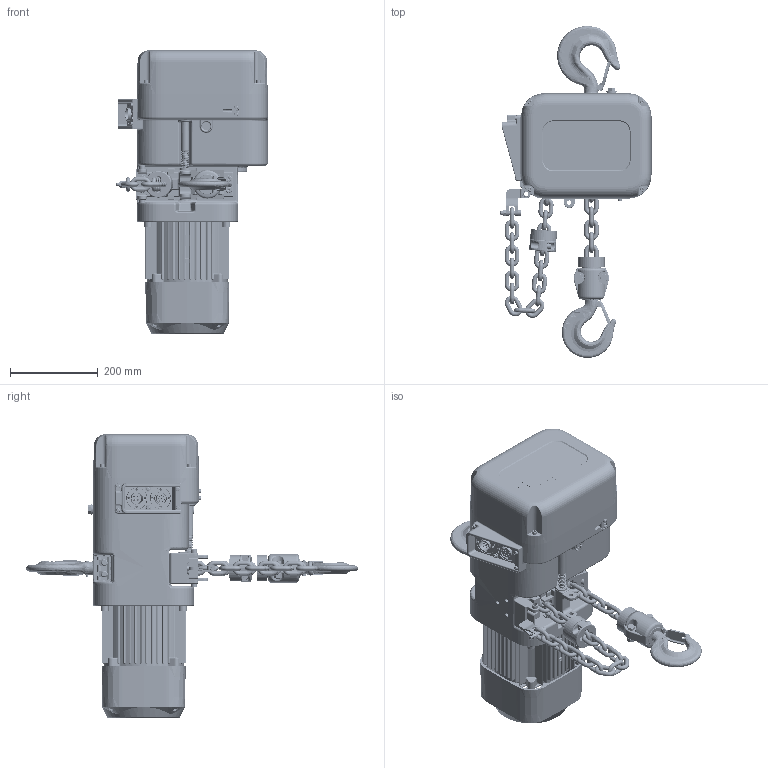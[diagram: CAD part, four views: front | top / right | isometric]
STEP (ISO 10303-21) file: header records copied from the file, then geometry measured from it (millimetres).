
FILE_DESCRIPTION (( 'STEP AP214' ), '1' );
FILE_NAME ('NER2015S.STEP', '2025-10-10T18:58:09', ( '' ), ( '' ), 'SwSTEP 2.0', 'SolidWorks 2025', '' );
FILE_SCHEMA (( 'AUTOMOTIVE_DESIGN' ));
Length unit declared in the file: inch
Products named in the file (51): ER2ES1002; J1BY9-1003526_B18.2.3.1M - Hex cap screw, M10 x 1.5 x 35 --35C; ER2ES9186; ER1ES1041; ER1BS9535; ER2EM1002; E3S111003; ER2ES9408; ER2DS9107_ER2DS9107; J1BG10604040_J1BG10604040; J1WS011-20100_Rectangular section spring washer BS 4464 - 16 (Type B); MS561010; 90912116_90912116; LCER2020NP (SHAPED 2); ER2CS9511; M6F554010; ER2ES2523; ER2EL9338; ER1BS9135; ER2EM9015; ES127005S; ER2ES9337; J1BG10601212_B18.3.1M - 6 x 1.0 x 12 Hex SHCS -- 12CHX; ER2CS9357; 9012711_9012711; ER2BHM20S9A5; LCER2020NP_10 LINKS; ER2EM1011; ER2EL9105; 9091274_9091274; ER2EL9103; ER2ES9121; ER2EM9011; LCER2020NP; ENDS2E; ER2BHM15M9A6; 90912152_B18.3.1M - 8 x 1.25 x 40 Hex SHCS -- 40CHX; ER2ES9331; ER2EM2015; ER1ES9053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
Assembly tree (109 placements, depth 4):
  NER2015S
    ER2ES9104_ER2ES9104
    ER2EL9103
    ER2ES9101
    ER2EL9105
    ER2DS9107_ER2DS9107
    ER2EM1011
      ER2EM9011
      ER2EM1002
      ER2EM2015
        ER2EM9015  x2
        J1BY9-1003526_B18.2.3.1M - Hex cap screw, M10 x 1.5 x 35 --35C  x2
        J1WS011-20100_Rectangular section spring washer BS 4464 - 16 (Type B)  x2
        J1NA001-20100_B18.2.4.1M - Hex nut, Style 1,  M10 x 1.5, with 16mm WAF --D-C  x2
    ER2ES1001
      ER2ES9001
      ER2ES1002
    ER2ES9121  x2
    ER2ES9186
    ER2ES9123
    J1BG10601212_B18.3.1M - 6 x 1.0 x 12 Hex SHCS -- 12CHX
    ER2CS9511
    J1BG10604040_J1BG10604040  x4
    90912116_90912116  x4
    9091234_B18.3.1M - 5 x 0.8 x 45 Hex SHCS -- 22CHX  x4
    E3S111003
    E3S112003
    ER1BS9135
    ES127005S
    ER2EL9338
    ER2CS9357
    ER2ES9337
    9012711_9012711  x4
    9091274_9091274  x4
    LCER2020NP_10 LINKS
      LCER2020NP  x10
    ER2ES2523
    ER2CS2564
    MS561010  x6
    ER2BHM20S9A5
    ER2BHM15M9A6
    ER2ES9331
    ER1BS9535
    M6F554010  x2
    ER1ES9053  x2
    LCER2020NP (SHAPED 2)
      LCER2020NP  x23
    ENDS2E
      ER2ES9408
      90912152_B18.3.1M - 8 x 1.25 x 40 Hex SHCS -- 40CHX
      ES857005S
    ER1ES1041
Bounding box: 345 x 757.01 x 646 mm (x, y, z)
Volume: 21559986 mm3; surface area: 1997653.1 mm2
Topology: 122 solids, 123 shells, 5763 faces, 14794 edges, 9170 vertices
Faces by surface type: cylinder 2297, plane 1799, torus 682, bspline 440, cone 334, sphere 211
Entity records: 188375 total; most frequent: CARTESIAN_POINT 70875, DIRECTION 23968, ORIENTED_EDGE 23646, EDGE_CURVE 11823, AXIS2_PLACEMENT_3D 9244, VERTEX_POINT 7494, LINE 5480, VECTOR 5480
